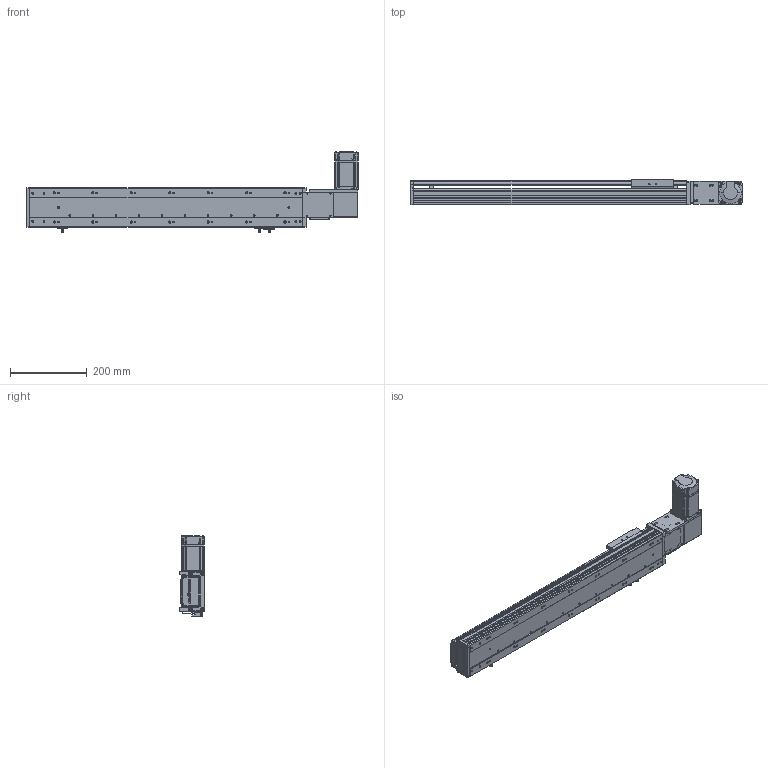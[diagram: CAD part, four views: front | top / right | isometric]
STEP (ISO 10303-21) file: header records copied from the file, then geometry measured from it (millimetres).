
FILE_DESCRIPTION (( 'STEP AP203' ), '1' );
FILE_NAME ('RY100-T-300-RK.SLDASM_500.step', '2024-04-25T08:21:50', ( '盈信电脑' ), ( '东莞市道滘镇水果街19号' ), 'SwSTEP 2.0', 'SolidWorks 2016', '' );
FILE_SCHEMA (( 'CONFIG_CONTROL_DESIGN' ));
Length unit declared in the file: millimetre
Products named in the file (15): RY100-T粣創揤踡裔; 侂狟200W萇儂; RY80-T肮祭謫俋欶; RY100-T左右折电机安装板; RY100-T肮祭謫翋盓傅釱; RY100-T肮祭謫臏賑輸; 覜茼ん672; RY100綴裔啣; RY100俋离覜茼え; 1; RY100-T-300-RK倰第奻裔_500; RY100-T-300-RK倰第菁釱_500; RY100-T-300-RK.SLDASM_500; 滅袉蝶18-10; RY100-T翋肮祭謫裔啣2
Assembly tree (18 placements, depth 3):
  RY100-T-300-RK.SLDASM_500
    RY100-T-300-RK倰第菁釱_500
    RY100-T-300-RK倰第奻裔_500
    RY100-T肮祭謫臏賑輸
    RY100綴裔啣
    覜茼ん672  x3
    RY100俋离覜茼え
    RY100-T肮祭謫翋盓傅釱
    RY100-T左右折电机安装板
    侂狟200W萇儂
      1
    RY100-T粣創揤踡裔
    滅袉蝶18-10  x2
    RY100-T翋肮祭謫裔啣2  x2
    RY80-T肮祭謫俋欶
Bounding box: 864 x 66 x 209.7 mm (x, y, z)
Volume: 1825686 mm3; surface area: 724468 mm2
Topology: 17 solids, 17 shells, 2165 faces, 6021 edges, 3913 vertices
Faces by surface type: plane 1189, cylinder 767, cone 131, bspline 78
Entity records: 69091 total; most frequent: CARTESIAN_POINT 16727, ORIENTED_EDGE 10778, DIRECTION 10233, EDGE_CURVE 5389, VERTEX_POINT 3549, VECTOR 3509, LINE 3509, AXIS2_PLACEMENT_3D 3362
